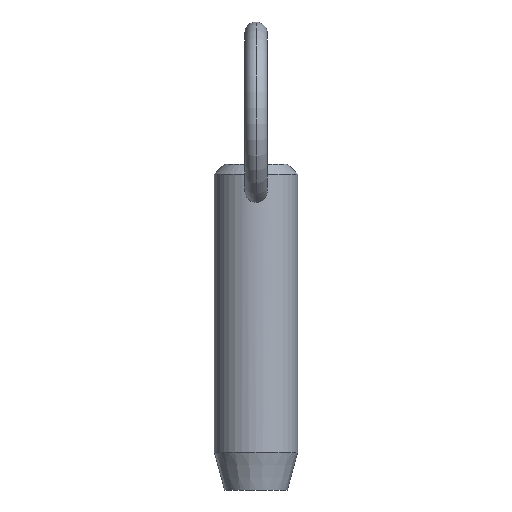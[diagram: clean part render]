
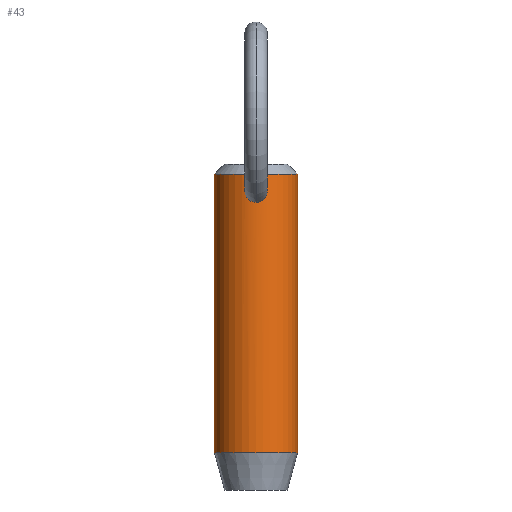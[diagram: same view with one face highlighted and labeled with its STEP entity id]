
A CAD part, front view. The second image highlights one B-rep face of the part: STEP entity #43.
In plain terms, the highlighted cylindrical face has radius 5.55 mm (diameter 11.1 mm), a partial arc.
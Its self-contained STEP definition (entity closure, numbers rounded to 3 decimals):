
#6 = CARTESIAN_POINT ( 'NONE',  ( -5.55, 0., 22.9 ) ) ;
#9 = FACE_OUTER_BOUND ( 'NONE', #488, .T. ) ;
#10 = ORIENTED_EDGE ( 'NONE', *, *, #522, .T. ) ;
#14 = CARTESIAN_POINT ( 'NONE',  ( 0., -5.55, 24.177 ) ) ;
#21 = CARTESIAN_POINT ( 'NONE',  ( -1.195, -5.421, 26.871 ) ) ;
#23 = CARTESIAN_POINT ( 'NONE',  ( -1.26, -5.407, 24.842 ) ) ;
#27 = DIRECTION ( 'NONE',  ( 1., 0., 0. ) ) ;
#32 = ORIENTED_EDGE ( 'NONE', *, *, #513, .T. ) ;
#43 = ADVANCED_FACE ( 'NONE', ( #9, #269 ), #365, .T. ) ;
#58 = CARTESIAN_POINT ( 'NONE',  ( -0.807, -5.492, 24.405 ) ) ;
#60 = CARTESIAN_POINT ( 'NONE',  ( -1.485, -5.348, 26.079 ) ) ;
#61 = DIRECTION ( 'NONE',  ( -1., 0., 0. ) ) ;
#67 = CARTESIAN_POINT ( 'NONE',  ( -1.054, -5.449, 24.604 ) ) ;
#69 = CARTESIAN_POINT ( 'NONE',  ( 0.515, -5.527, 27.522 ) ) ;
#71 = CARTESIAN_POINT ( 'NONE',  ( 0.417, -5.535, 27.567 ) ) ;
#77 = VERTEX_POINT ( 'NONE', #256 ) ;
#88 = AXIS2_PLACEMENT_3D ( 'NONE', #423, #458, #509 ) ;
#96 = CARTESIAN_POINT ( 'NONE',  ( -0.416, -5.535, 27.567 ) ) ;
#98 = CARTESIAN_POINT ( 'NONE',  ( -0.42, -5.535, 24.232 ) ) ;
#99 = B_SPLINE_CURVE_WITH_KNOTS ( 'NONE', 3,
 ( #434, #395, #193, #71, #69, #470, #111, #344, #514, #108, #352, #391, #394, #144, #430, #147, #234, #347, #349, #517, #275, #305, #189, #104, #145, #429 ),
 .UNSPECIFIED., .F., .F.,
 ( 4, 2, 2, 2, 2, 2, 2, 2, 2, 2, 2, 2, 4 ),
 ( 0.005, 0.005, 0.005, 0.006, 0.006, 0.007, 0.007, 0.008, 0.008, 0.009, 0.009, 0.009, 0.01 ),
 .UNSPECIFIED. ) ;
#101 = CARTESIAN_POINT ( 'NONE',  ( -0.976, -5.464, 24.531 ) ) ;
#102 = CARTESIAN_POINT ( 'NONE',  ( 0., 0., -9.2 ) ) ;
#103 = EDGE_CURVE ( 'NONE', #188, #494, #99, .T. ) ;
#104 = CARTESIAN_POINT ( 'NONE',  ( 0.213, -5.547, 24.188 ) ) ;
#106 = VECTOR ( 'NONE', #209, 1000. ) ;
#108 = CARTESIAN_POINT ( 'NONE',  ( 1.44, -5.36, 26.286 ) ) ;
#111 = CARTESIAN_POINT ( 'NONE',  ( 0.941, -5.471, 27.207 ) ) ;
#112 = CIRCLE ( 'NONE', #330, 5.55 ) ;
#122 = CIRCLE ( 'NONE', #492, 5.55 ) ;
#137 = CARTESIAN_POINT ( 'NONE',  ( 0., -5.55, 27.645 ) ) ;
#140 = CARTESIAN_POINT ( 'NONE',  ( -1.477, -5.35, 25.442 ) ) ;
#141 = CARTESIAN_POINT ( 'NONE',  ( -5.55, 0., 27.95 ) ) ;
#144 = CARTESIAN_POINT ( 'NONE',  ( 1.477, -5.35, 25.444 ) ) ;
#145 = CARTESIAN_POINT ( 'NONE',  ( 0.107, -5.55, 24.177 ) ) ;
#147 = CARTESIAN_POINT ( 'NONE',  ( 1.363, -5.38, 25.034 ) ) ;
#153 = VERTEX_POINT ( 'NONE', #141 ) ;
#155 = EDGE_CURVE ( 'NONE', #375, #153, #122, .T. ) ;
#160 = LINE ( 'NONE', #237, #455 ) ;
#179 = DIRECTION ( 'NONE',  ( 0., 0., 1. ) ) ;
#182 = DIRECTION ( 'NONE',  ( 0., 0., -1. ) ) ;
#188 = VERTEX_POINT ( 'NONE', #389 ) ;
#189 = CARTESIAN_POINT ( 'NONE',  ( 0.421, -5.535, 24.232 ) ) ;
#193 = CARTESIAN_POINT ( 'NONE',  ( 0.214, -5.547, 27.628 ) ) ;
#196 = DIRECTION ( 'NONE',  ( 0., 0., -1. ) ) ;
#209 = DIRECTION ( 'NONE',  ( 0., 0., -1. ) ) ;
#234 = CARTESIAN_POINT ( 'NONE',  ( 1.26, -5.407, 24.843 ) ) ;
#237 = CARTESIAN_POINT ( 'NONE',  ( 5.55, 0., 22.9 ) ) ;
#254 = CARTESIAN_POINT ( 'NONE',  ( 0., -5.55, 24.177 ) ) ;
#256 = CARTESIAN_POINT ( 'NONE',  ( 5.55, 0., -9.2 ) ) ;
#257 = CARTESIAN_POINT ( 'NONE',  ( -0.523, -5.526, 24.266 ) ) ;
#269 = FACE_BOUND ( 'NONE', #325, .T. ) ;
#272 = CARTESIAN_POINT ( 'NONE',  ( 0., 0., 27.95 ) ) ;
#275 = CARTESIAN_POINT ( 'NONE',  ( 0.716, -5.504, 24.352 ) ) ;
#276 = CARTESIAN_POINT ( 'NONE',  ( -5.55, 0., -9.2 ) ) ;
#300 = CARTESIAN_POINT ( 'NONE',  ( -0.939, -5.472, 27.21 ) ) ;
#303 = ORIENTED_EDGE ( 'NONE', *, *, #155, .T. ) ;
#305 = CARTESIAN_POINT ( 'NONE',  ( 0.523, -5.526, 24.266 ) ) ;
#311 = EDGE_CURVE ( 'NONE', #375, #77, #160, .T. ) ;
#325 = EDGE_LOOP ( 'NONE', ( #411, #32 ) ) ;
#330 = AXIS2_PLACEMENT_3D ( 'NONE', #102, #179, #61 ) ;
#338 = CARTESIAN_POINT ( 'NONE',  ( -0.785, -5.497, 27.358 ) ) ;
#339 = ORIENTED_EDGE ( 'NONE', *, *, #412, .T. ) ;
#341 = CARTESIAN_POINT ( 'NONE',  ( -0.513, -5.527, 27.523 ) ) ;
#344 = CARTESIAN_POINT ( 'NONE',  ( 1.194, -5.422, 26.871 ) ) ;
#347 = CARTESIAN_POINT ( 'NONE',  ( 1.055, -5.449, 24.605 ) ) ;
#349 = CARTESIAN_POINT ( 'NONE',  ( 0.977, -5.464, 24.532 ) ) ;
#352 = CARTESIAN_POINT ( 'NONE',  ( 1.486, -5.347, 26.074 ) ) ;
#353 = VERTEX_POINT ( 'NONE', #276 ) ;
#358 = LINE ( 'NONE', #6, #106 ) ;
#364 = CARTESIAN_POINT ( 'NONE',  ( 5.55, 0., 27.95 ) ) ;
#365 = CYLINDRICAL_SURFACE ( 'NONE', #88, 5.55 ) ;
#371 = B_SPLINE_CURVE_WITH_KNOTS ( 'NONE', 3,
 ( #14, #422, #386, #98, #257, #510, #58, #101, #67, #23, #508, #457, #140, #417, #381, #60, #426, #468, #21, #300, #338, #341, #96, #383, #379, #137 ),
 .UNSPECIFIED., .F., .F.,
 ( 4, 2, 2, 2, 2, 2, 2, 2, 2, 2, 2, 2, 4 ),
 ( 0.01, 0.01, 0.01, 0.011, 0.011, 0.012, 0.012, 0.012, 0.013, 0.013, 0.014, 0.014, 0.015 ),
 .UNSPECIFIED. ) ;
#375 = VERTEX_POINT ( 'NONE', #364 ) ;
#379 = CARTESIAN_POINT ( 'NONE',  ( -0.106, -5.55, 27.645 ) ) ;
#381 = CARTESIAN_POINT ( 'NONE',  ( -1.503, -5.343, 25.759 ) ) ;
#383 = CARTESIAN_POINT ( 'NONE',  ( -0.211, -5.547, 27.629 ) ) ;
#386 = CARTESIAN_POINT ( 'NONE',  ( -0.212, -5.547, 24.188 ) ) ;
#389 = CARTESIAN_POINT ( 'NONE',  ( 0., -5.55, 27.645 ) ) ;
#391 = CARTESIAN_POINT ( 'NONE',  ( 1.503, -5.343, 25.759 ) ) ;
#394 = CARTESIAN_POINT ( 'NONE',  ( 1.5, -5.343, 25.654 ) ) ;
#395 = CARTESIAN_POINT ( 'NONE',  ( 0.106, -5.55, 27.645 ) ) ;
#411 = ORIENTED_EDGE ( 'NONE', *, *, #103, .T. ) ;
#412 = EDGE_CURVE ( 'NONE', #153, #353, #358, .T. ) ;
#417 = CARTESIAN_POINT ( 'NONE',  ( -1.5, -5.343, 25.653 ) ) ;
#422 = CARTESIAN_POINT ( 'NONE',  ( -0.107, -5.55, 24.177 ) ) ;
#423 = CARTESIAN_POINT ( 'NONE',  ( 0., 0., 22.9 ) ) ;
#426 = CARTESIAN_POINT ( 'NONE',  ( -1.44, -5.36, 26.287 ) ) ;
#429 = CARTESIAN_POINT ( 'NONE',  ( 0., -5.55, 24.177 ) ) ;
#430 = CARTESIAN_POINT ( 'NONE',  ( 1.455, -5.356, 25.338 ) ) ;
#434 = CARTESIAN_POINT ( 'NONE',  ( 0., -5.55, 27.645 ) ) ;
#455 = VECTOR ( 'NONE', #196, 1000. ) ;
#457 = CARTESIAN_POINT ( 'NONE',  ( -1.455, -5.356, 25.336 ) ) ;
#458 = DIRECTION ( 'NONE',  ( 0., 0., -1. ) ) ;
#464 = ORIENTED_EDGE ( 'NONE', *, *, #311, .F. ) ;
#468 = CARTESIAN_POINT ( 'NONE',  ( -1.294, -5.398, 26.686 ) ) ;
#470 = CARTESIAN_POINT ( 'NONE',  ( 0.786, -5.497, 27.357 ) ) ;
#488 = EDGE_LOOP ( 'NONE', ( #464, #303, #339, #10 ) ) ;
#492 = AXIS2_PLACEMENT_3D ( 'NONE', #272, #182, #27 ) ;
#494 = VERTEX_POINT ( 'NONE', #254 ) ;
#508 = CARTESIAN_POINT ( 'NONE',  ( -1.362, -5.381, 25.032 ) ) ;
#509 = DIRECTION ( 'NONE',  ( -1., 0., 0. ) ) ;
#510 = CARTESIAN_POINT ( 'NONE',  ( -0.716, -5.504, 24.352 ) ) ;
#513 = EDGE_CURVE ( 'NONE', #494, #188, #371, .T. ) ;
#514 = CARTESIAN_POINT ( 'NONE',  ( 1.295, -5.397, 26.682 ) ) ;
#517 = CARTESIAN_POINT ( 'NONE',  ( 0.807, -5.492, 24.406 ) ) ;
#522 = EDGE_CURVE ( 'NONE', #353, #77, #112, .T. ) ;
